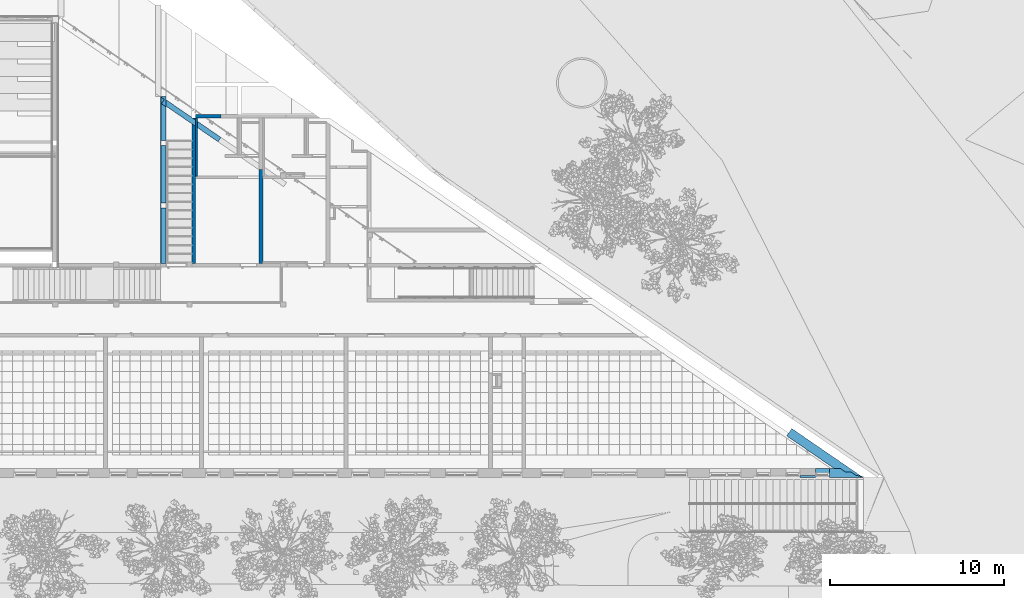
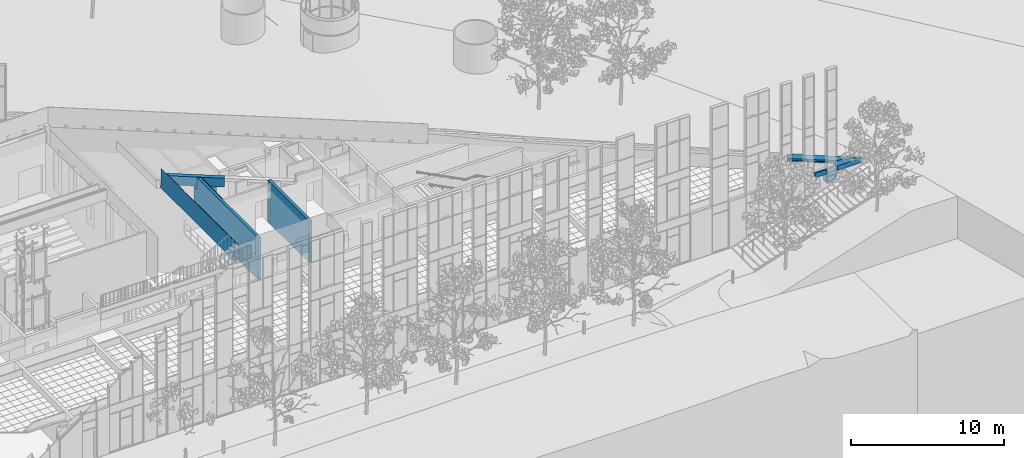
# One storey, part 134 of 246: 9 walls, 1 opening.
"""IFC2X3 building model written with IfcOpenShell, lengths in millimetres."""

import ifcopenshell
import ifcopenshell.guid

model = None  # the IFC model being written
_history = None  # IfcOwnerHistory: only IFC2X3 demands one
_inside = {}  # id of a spatial element -> (the spatial element, [elements in it])
_under = {}  # id of a project, library or spatial element -> (it, [spatial elements below it])
_declared = {}  # id of a project -> (the project, [libraries it declares])
_typed = {}  # id of a type object -> (the type object, [elements of that type])
_made_of = {}  # id of a material, layer set ... -> (it, [elements and type objects made of it])


def new_model(schema):
    """Start an empty IFC model of exactly this schema.

    Asked for "IFC4X3", IfcOpenShell would pick the latest addendum, in which some entities
    have other attributes; the version numbers below select the first issue.
    IFC2X3 requires an IfcOwnerHistory on every rooted entity: one is made here for all.
    """
    global model, _history
    if schema == "IFC4X3":
        model = ifcopenshell.file(schema_version=(4, 3, 0, 0))
    else:
        model = ifcopenshell.file(schema=schema)
    _inside.clear()
    _under.clear()
    _declared.clear()
    _typed.clear()
    _made_of.clear()
    _history = None
    if model.schema == "IFC2X3":
        org = make("IfcOrganization", Name="unknown")
        user = make(
            "IfcPersonAndOrganization",
            ThePerson=make("IfcPerson", FamilyName="unknown"),
            TheOrganization=org,
        )
        app = make(
            "IfcApplication",
            ApplicationDeveloper=org,
            Version="unknown",
            ApplicationFullName="unknown",
            ApplicationIdentifier="unknown",
        )
        _history = make(
            "IfcOwnerHistory",
            OwningUser=user,
            OwningApplication=app,
            ChangeAction="ADDED",
            CreationDate=0,
        )
    return model


def make(cls, **values):
    """One entity of the class cls with the attributes given. An attribute that is None is left unset."""
    return model.create_entity(
        cls, **{name: value for name, value in values.items() if value is not None}
    )


def entity(cls, *values):
    """Any entity or typed value of the class cls, its attributes in the order of the schema. None: left unset."""
    e = model.create_entity(cls)
    for i, value in enumerate(values):
        if value is not None:
            e[i] = value
    return e


def rooted(cls, **values):
    """An entity with a GlobalId (a new one), such as an element, a storey or a relation."""
    return make(cls, GlobalId=ifcopenshell.guid.new(), OwnerHistory=_history, **values)


def si_unit(unit_type, name, prefix=None):
    """IfcSIUnit, for example si_unit("LENGTHUNIT", "METRE", prefix="MILLI")."""
    return make("IfcSIUnit", UnitType=unit_type, Prefix=prefix, Name=name)


def converted_unit(unit_type, name, factor, base, dimensions=None, offset=None):
    """IfcConversionBasedUnit, such as the inch: factor (a typed value) times the base unit."""
    return make(
        "IfcConversionBasedUnit"
        if offset is None
        else "IfcConversionBasedUnitWithOffset",
        ConversionOffset=offset,
        Dimensions=None
        if dimensions is None
        else entity("IfcDimensionalExponents", *dimensions),
        UnitType=unit_type,
        Name=name,
        ConversionFactor=make(
            "IfcMeasureWithUnit", ValueComponent=factor, UnitComponent=base
        ),
    )


def derived_unit(unit_type, elements):
    """IfcDerivedUnit: a product of units, each with its exponent."""
    return make(
        "IfcDerivedUnit",
        Elements=[
            make("IfcDerivedUnitElement", Unit=unit, Exponent=power)
            for unit, power in elements
        ],
        UnitType=unit_type,
    )


def money_unit(currency):
    """IfcMonetaryUnit."""
    return make("IfcMonetaryUnit", Currency=currency)


def assignment(units):
    """IfcUnitAssignment: the units of a project."""
    return None if units is None else make("IfcUnitAssignment", Units=units)


def point(xyz):
    """IfcCartesianPoint."""
    return None if xyz is None else make("IfcCartesianPoint", Coordinates=xyz)


def direction(xyz):
    """IfcDirection."""
    return None if xyz is None else make("IfcDirection", DirectionRatios=xyz)


def frame(location, z_axis=None, x_axis=None):
    """IfcAxis2Placement3D, a coordinate frame: its origin and axes. An axis left out is left unset."""
    return make(
        "IfcAxis2Placement3D",
        Location=point(location),
        Axis=direction(z_axis),
        RefDirection=direction(x_axis),
    )


def origin_with_axes():
    """The frame at (0, 0, 0) with the z axis (0, 0, 1) and the x axis (1, 0, 0) written out."""
    return frame((0.0, 0.0, 0.0), z_axis=(0.0, 0.0, 1.0), x_axis=(1.0, 0.0, 0.0))


def place(relative_to, where):
    """IfcLocalPlacement: puts the frame where relative to a parent placement (None: the world)."""
    return make(
        "IfcLocalPlacement", PlacementRelTo=relative_to, RelativePlacement=where
    )


def context(
    kind, dimensions, precision=None, world=None, true_north=None, identifier=None
):
    """IfcGeometricRepresentationContext, for example the 3D "Model" context."""
    return make(
        "IfcGeometricRepresentationContext",
        ContextIdentifier=identifier,
        ContextType=kind,
        CoordinateSpaceDimension=dimensions,
        Precision=precision,
        WorldCoordinateSystem=world,
        TrueNorth=true_north,
    )


def subcontext(parent, identifier, kind, view, scale=None):
    """IfcGeometricRepresentationSubContext, for example "Body" below "Model"."""
    return make(
        "IfcGeometricRepresentationSubContext",
        ContextIdentifier=identifier,
        ContextType=kind,
        ParentContext=parent,
        TargetScale=scale,
        TargetView=view,
    )


def project(units=None, contexts=None):
    """IfcProject with its units and contexts."""
    return rooted(
        "IfcProject",
        Name="project",
        RepresentationContexts=contexts,
        UnitsInContext=assignment(units),
    )


def spatial(cls, under=None, at=None, **own):
    """A site, building, storey or space (cls), placed at a placement, below another one or the project."""
    s = rooted(cls, ObjectPlacement=at, **own)
    if under is not None:
        _under.setdefault(under.id(), (under, []))[1].append(s)
    return s


def faces_of(points, faces, orient=None, outer=None):
    """IfcFace entities. A face is a list of loops; a loop is a list of indices into points, from 0.

    orient and outer hold one flag for each loop. By default every Orientation is true, the
    first loop of a face is its IfcFaceOuterBound and the others are IfcFaceBound.
    """
    made = []
    for i, loops in enumerate(faces):
        bounds = []
        for j, loop in enumerate(loops):
            is_outer = j == 0 if outer is None else outer[i][j]
            bounds.append(
                make(
                    "IfcFaceOuterBound" if is_outer else "IfcFaceBound",
                    Bound=make("IfcPolyLoop", Polygon=[points[k] for k in loop]),
                    Orientation=True if orient is None else orient[i][j],
                )
            )
        made.append(make("IfcFace", Bounds=bounds))
    return made


def faceted_brep(points, faces, orient=None, outer=None, voids=None):
    """IfcFacetedBrep: a solid bounded by flat faces; with voids (closed shells), ...WithVoids."""
    shared = [point(p) for p in points]
    hull = make("IfcClosedShell", CfsFaces=faces_of(shared, faces, orient, outer))
    if voids is None:
        return make("IfcFacetedBrep", Outer=hull)
    return make(
        "IfcFacetedBrepWithVoids",
        Outer=hull,
        Voids=[
            make(cls, CfsFaces=faces_of(shared, fs, o, b)) for cls, fs, o, b in voids
        ],
    )


def shape(context_of_items, identifier, shape_type, items):
    """IfcShapeRepresentation: the items that make up one representation, for example the "Body"."""
    return make(
        "IfcShapeRepresentation",
        ContextOfItems=context_of_items,
        RepresentationIdentifier=identifier,
        RepresentationType=shape_type,
        Items=items,
    )


def material(Name=None, Category=None):
    """IfcMaterial."""
    return make("IfcMaterial", Name=Name, Category=Category)


def material_list(materials):
    """IfcMaterialList."""
    return make("IfcMaterialList", Materials=materials)


def made_of(thing, what):
    """Note that an element or type object is made of a material, layer set ...; save() writes the relation."""
    if what is not None:
        _made_of.setdefault(what.id(), (what, []))[1].append(thing)
    return thing


def type_object(cls, material=None, **own):
    """A type object (cls), such as IfcWallType, which elements share."""
    return made_of(rooted(cls, **own), material)


def element(
    cls,
    number,
    at=None,
    inside=None,
    cuts=None,
    type_object=None,
    material=None,
    context=None,
    identifier="Body",
    shape_type=None,
    held_by="IfcProductDefinitionShape",
    body=None,
    shapes=None,
    **own,
):
    """One element of the class cls, such as IfcWall. Its Tag is "e" and its number.

    at: its placement. inside: the storey or other place that contains it. cuts: it is an
    opening in that element (IfcRelVoidsElement). A single representation is given by context,
    identifier, shape_type and body (its items); several are given by shapes. held_by: the class
    of the entity that holds the representations. save() writes the other relations.
    """
    e = rooted(cls, Tag="e%d" % number, ObjectPlacement=at, **own)
    if body is not None:
        shapes = [shape(context, identifier, shape_type, body)]
    if shapes is not None:
        e.Representation = make(held_by, Representations=shapes)
    if inside is not None:
        _inside.setdefault(inside.id(), (inside, []))[1].append(e)
    if cuts is not None:
        rooted(
            "IfcRelVoidsElement", RelatingBuildingElement=cuts, RelatedOpeningElement=e
        )
    if type_object is not None:
        _typed.setdefault(type_object.id(), (type_object, []))[1].append(e)
    return made_of(e, material)


def aggregate(whole, parts):
    """IfcRelAggregates: a whole, such as a stair, and the parts it consists of."""
    return rooted("IfcRelAggregates", RelatingObject=whole, RelatedObjects=parts)


def save(model, path):
    """Write the relations noted so far, then the file.

    IfcRelAggregates (storeys below a building ...), IfcRelContainedInSpatialStructure (elements
    in a storey), IfcRelDefinesByType, IfcRelAssociatesMaterial and IfcRelDeclares: one each for
    every whole, place, type object, material and project.
    """
    for whole, parts in _under.values():
        aggregate(whole, parts)
    for where, things in _inside.values():
        rooted(
            "IfcRelContainedInSpatialStructure",
            RelatedElements=things,
            RelatingStructure=where,
        )
    for kind, things in _typed.values():
        rooted("IfcRelDefinesByType", RelatedObjects=things, RelatingType=kind)
    for what, things in _made_of.values():
        rooted("IfcRelAssociatesMaterial", RelatedObjects=things, RelatingMaterial=what)
    for by, libraries in _declared.values():
        rooted("IfcRelDeclares", RelatingContext=by, RelatedDefinitions=libraries)
    model.write(path)


model = new_model("IFC2X3")

# Units and contexts
model_context = context("Model", 3, precision=0.01, world=origin_with_axes(), true_north=direction((0.0, 1.0)))
body_context = subcontext(model_context, "Body", "Model", "MODEL_VIEW")
ifc_project = project(units=[si_unit("LENGTHUNIT", "METRE", prefix="MILLI"), si_unit("AREAUNIT", "SQUARE_METRE"), si_unit("VOLUMEUNIT", "CUBIC_METRE"), converted_unit("PLANEANGLEUNIT", "DEGREE", entity("IfcPlaneAngleMeasure", 0.0174532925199), si_unit("PLANEANGLEUNIT", "RADIAN"), dimensions=[0, 0, 0, 0, 0, 0, 0]), si_unit("SOLIDANGLEUNIT", "STERADIAN"), money_unit("EUR"), converted_unit("TIMEUNIT", "Year", entity("IfcTimeMeasure", 31556926.0), si_unit("TIMEUNIT", "SECOND"), dimensions=[0, 0, 1, 0, 0, 0, 0]), si_unit("MASSUNIT", "GRAM", prefix="KILO"), si_unit("THERMODYNAMICTEMPERATUREUNIT", "DEGREE_CELSIUS"), si_unit("LUMINOUSINTENSITYUNIT", "LUMEN"), si_unit("ENERGYUNIT", "JOULE", prefix="MEGA"), derived_unit("THERMALCONDUCTANCEUNIT", [(si_unit("POWERUNIT", "WATT"), 1), (si_unit("LENGTHUNIT", "METRE"), -1), (si_unit("THERMODYNAMICTEMPERATUREUNIT", "KELVIN"), -1)]), derived_unit("SPECIFICHEATCAPACITYUNIT", [(si_unit("ENERGYUNIT", "JOULE"), 1), (si_unit("MASSUNIT", "GRAM", prefix="KILO"), -1), (si_unit("THERMODYNAMICTEMPERATUREUNIT", "KELVIN"), -1)]), derived_unit("MASSDENSITYUNIT", [(si_unit("MASSUNIT", "GRAM", prefix="KILO"), 1), (si_unit("VOLUMEUNIT", "CUBIC_METRE"), -1)])], contexts=[model_context])

# Site, building, storey
site_placement = place(None, origin_with_axes())
site = spatial("IfcSite", under=ifc_project, at=site_placement, Name="L.Koidula tn 11b", CompositionType="ELEMENT")
building_placement = place(site_placement, origin_with_axes())
building = spatial("IfcBuilding", under=site, at=building_placement, Name="Rakvere Riigigümnaasium", CompositionType="ELEMENT")
storey_placement = place(building_placement, origin_with_axes())
storey = spatial("IfcBuildingStorey", under=building, at=storey_placement, Name="1.korrus 0,00", CompositionType="ELEMENT", Elevation=0.0)

# Walls
ifc_material_1 = material(Name="siseviimistlus-seinad")
ifc_material_2 = material(Name="Betoon element / plaat")
ifc_material_list_1 = material_list([ifc_material_1, ifc_material_2])
wall_type_1 = type_object("IfcWallType", Name="SS-01-1 210", PredefinedType="NOTDEFINED")
wall_1_placement = place(storey_placement, frame((65899.9980729, 25700.9371768, 0.0), z_axis=(0.0, 0.0, 1.0), x_axis=(0.0, -1.0, 0.0)))
element("IfcWall", 1, at=wall_1_placement, inside=storey, type_object=wall_type_1, material=ifc_material_list_1, Name="Sisesein", context=body_context, shape_type="Brep", body=[
    faceted_brep([(542.761854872, 210.0, 2790.0), (542.761854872, 210.0, 3324.99999166), (3360.48384003, 210.0, 3324.99999166), (3360.48384003, 210.0, 0.0), (1.49994481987, 210.0, 0.0), (1.49994481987, 210.0, 2345.0), (542.761854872, 210.0, 2345.0), (535.903521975, 200.0, 3324.99999166), (535.903521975, 200.0, 2790.0), (3360.48384003, 200.0, 3324.99999166), (3360.48384003, 200.0, 0.0), (1.49994481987, 200.0, 0.0), (1.49994481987, 200.0, 2345.0), (535.903521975, 200.0, 2345.0)], [[[0, 1, 2, 3, 4, 5, 6]], [[7, 1, 0, 8]], [[1, 7, 9, 2]], [[10, 3, 2, 9]], [[3, 10, 11, 4]], [[11, 12, 5, 4]], [[13, 6, 5, 12]], [[8, 0, 6, 13]], [[7, 8, 13, 12, 11, 10, 9]]]),
    faceted_brep([(8380.48165424, 210.0, 3324.99999166), (3480.48384003, 210.0, 3324.99999166), (3480.48384003, 200.0, 3324.99999166), (8380.48165424, 200.0, 3324.99999166), (8380.48165424, 210.0, 0.0), (3480.48384003, 210.0, 0.0), (3480.48384003, 200.0, 0.0), (8380.48165424, 200.0, 0.0)], [[[0, 1, 2, 3]], [[4, 5, 1, 0]], [[2, 1, 5, 6]], [[3, 2, 6, 7]], [[3, 7, 4, 0]], [[7, 6, 5, 4]]]),
    faceted_brep([(535.903521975, 200.0, 2610.0), (535.903521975, 200.0, 3324.99999166), (8390.48165424, 200.0, 3324.99999166), (8390.48165424, 200.0, 0.0), (0.0, 200.0, 0.0), (0.0, 200.0, 2345.0), (535.903521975, 200.0, 2345.0), (398.736864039, 0.0, 3324.99999166), (398.736864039, 0.0, 2610.0), (8390.48165424, 0.0, 3324.99999166), (8390.48165424, 0.0, 0.0), (0.0, 0.0, 0.0), (0.0, 0.0, 2345.0), (398.736864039, 0.0, 2345.0)], [[[0, 1, 2, 3, 4, 5, 6]], [[7, 1, 0, 8]], [[1, 7, 9, 2]], [[10, 3, 2, 9]], [[11, 4, 3, 10]], [[4, 11, 12, 5]], [[12, 13, 6, 5]], [[8, 0, 6, 13]], [[7, 8, 13, 12, 11, 10, 9]]]),
])
ifc_material_list_2 = material_list([ifc_material_2, ifc_material_1])
wall_2_placement = place(storey_placement, frame((65899.9980729, 25699.437232, 0.0), z_axis=(0.0, 0.0, 1.0), x_axis=(1.0, 0.0, 0.0)))
element("IfcWall", 2, at=wall_2_placement, inside=storey, type_object=wall_type_1, material=ifc_material_list_2, Name="Sisesein", context=body_context, shape_type="Brep", body=[
    faceted_brep([(200.0, 200.0, 0.0), (200.0, 200.0, 2345.0), (1676.1392506, 200.0, 2345.0), (1676.1392506, 200.0, 0.0), (200.0, 0.0, 0.0), (200.0, 0.0, 2345.0), (1676.1392506, 0.0, 2345.0), (1676.1392506, 0.0, 0.0)], [[[0, 1, 2, 3]], [[4, 5, 1, 0]], [[5, 6, 2, 1]], [[3, 2, 6, 7]], [[4, 0, 3, 7]], [[7, 6, 5, 4]]]),
    faceted_brep([(276.0, 0.0, 0.0), (276.0, 0.0, 2345.0), (1676.1392506, 0.0, 2345.0), (1676.1392506, 0.0, 0.0), (276.0, -10.0, 0.0), (276.0, -10.0, 2345.0), (1676.1392506, -10.0, 2345.0), (1676.1392506, -10.0, 0.0)], [[[0, 1, 2, 3]], [[4, 5, 1, 0]], [[5, 6, 2, 1]], [[3, 2, 6, 7]], [[4, 0, 3, 7]], [[7, 6, 5, 4]]]),
])
ifc_material_3 = material(Name="Polükarbamiid")
ifc_material_list_3 = material_list([ifc_material_3, ifc_material_1, ifc_material_2, ifc_material_1, ifc_material_3])
wall_type_2 = type_object("IfcWallType", Name="SS-01-4 230", PredefinedType="NOTDEFINED")
wall_3_placement = place(storey_placement, frame((69964.9873298, 22718.18075, 0.0), z_axis=(0.0, 0.0, 1.0), x_axis=(0.0, -1.0, 0.0)))
element("IfcWall", 3, at=wall_3_placement, inside=storey, type_object=wall_type_2, material=ifc_material_list_3, Name="Sisesein", context=body_context, shape_type="Brep", body=[
    faceted_brep([(507.727413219, 10.0, 3325.0), (507.727413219, 15.0, 3325.0), (507.727413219, 15.0, 0.0), (507.727413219, 10.0, 0.0), (5397.72522743, 15.0, 3325.0), (5397.72522743, 10.0, 3325.0), (5397.72522743, 15.0, 0.0), (5386.22522743, 15.0, 0.0), (5386.22522743, 15.0, 3255.0), (5294.72522743, 15.0, 3255.0), (5294.72522743, 15.0, 0.0), (5294.72522743, 10.0, 0.0), (5294.72522743, 10.0, 3255.0), (5386.22522743, 10.0, 3255.0), (5386.22522743, 10.0, 0.0), (5397.72522743, 10.0, 0.0)], [[[0, 1, 2, 3]], [[4, 1, 0, 5]], [[1, 4, 6, 7, 8, 9, 10, 2]], [[2, 10, 11, 3]], [[5, 0, 3, 11, 12, 13, 14, 15]], [[4, 5, 15, 6]], [[15, 14, 7, 6]], [[13, 8, 7, 14]], [[13, 12, 9, 8]], [[11, 10, 9, 12]]]),
    faceted_brep([(214.180043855, 15.0, 3255.0), (0.0, 15.0, 3255.0), (0.0, 15.0, 3325.0), (367.727413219, 15.0, 3325.0), (367.727413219, 15.0, 0.0), (0.0, 15.0, 0.0), (0.0, 15.0, 2810.0), (214.180043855, 15.0, 2810.0), (0.0, 10.0, 3255.0), (210.750860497, 10.0, 3255.0), (0.0, 10.0, 3325.0), (367.727413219, 10.0, 3325.0), (367.727413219, 10.0, 0.0), (0.0, 10.0, 0.0), (0.0, 10.0, 2810.0), (210.750860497, 10.0, 2810.0)], [[[0, 1, 2, 3, 4, 5, 6, 7]], [[8, 1, 0, 9]], [[1, 8, 10, 2]], [[3, 2, 10, 11]], [[3, 11, 12, 4]], [[5, 4, 12, 13]], [[14, 6, 5, 13]], [[7, 6, 14, 15]], [[9, 0, 7, 15]], [[9, 15, 14, 13, 12, 11, 10, 8]]]),
    faceted_brep([(497.727413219, 0.0, 3325.0), (497.727413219, 10.0, 3325.0), (497.727413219, 10.0, 0.0), (497.727413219, 0.0, 0.0), (5397.72522743, 10.0, 3325.0), (5397.72522743, 0.0, 3325.0), (5397.72522743, 10.0, 0.0), (5386.22522743, 10.0, 0.0), (5386.22522743, 10.0, 3255.0), (5320.22522743, 10.0, 3255.0), (5320.22522743, 10.0, 0.0), (5320.22522743, 0.0, 0.0), (5320.22522743, 0.0, 3255.0), (5386.22522743, 0.0, 3255.0), (5386.22522743, 0.0, 0.0), (5397.72522743, 0.0, 0.0)], [[[0, 1, 2, 3]], [[4, 1, 0, 5]], [[1, 4, 6, 7, 8, 9, 10, 2]], [[2, 10, 11, 3]], [[5, 0, 3, 11, 12, 13, 14, 15]], [[4, 5, 15, 6]], [[15, 14, 7, 6]], [[13, 8, 7, 14]], [[12, 9, 8, 13]], [[11, 10, 9, 12]]]),
    faceted_brep([(210.750860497, 10.0, 3255.0), (0.0, 10.0, 3255.0), (0.0, 10.0, 3325.0), (377.727413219, 10.0, 3325.0), (377.727413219, 10.0, 0.0), (0.0, 10.0, 0.0), (0.0, 10.0, 2810.0), (210.750860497, 10.0, 2810.0), (0.0, 0.0, 3255.0), (203.89249378, 0.0, 3255.0), (0.0, 0.0, 3325.0), (377.727413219, 0.0, 3325.0), (377.727413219, 0.0, 0.0), (0.0, 0.0, 0.0), (0.0, 0.0, 2810.0), (203.89249378, 0.0, 2810.0)], [[[0, 1, 2, 3, 4, 5, 6, 7]], [[8, 1, 0, 9]], [[1, 8, 10, 2]], [[3, 2, 10, 11]], [[3, 11, 12, 4]], [[5, 4, 12, 13]], [[14, 6, 5, 13]], [[7, 6, 14, 15]], [[9, 0, 7, 15]], [[9, 15, 14, 13, 12, 11, 10, 8]]]),
    faceted_brep([(203.89249378, 0.0, 2810.0), (203.89249378, 0.0, 3075.0), (0.0, 0.0, 3075.0), (0.0, 0.0, 3325.0), (5407.72522743, 0.0, 3325.0), (5407.72522743, 0.0, 0.0), (0.0, 0.0, 0.0), (0.0, 0.0, 2810.0), (66.7251594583, -200.0, 2810.0), (66.7251594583, -200.0, 3075.0), (0.0, -200.0, 3075.0), (0.0, -200.0, 3325.0), (5407.72522743, -200.0, 3325.0), (5407.72522743, -200.0, 0.0), (0.0, -200.0, 0.0), (0.0, -200.0, 2810.0)], [[[0, 1, 2, 3, 4, 5, 6, 7]], [[1, 0, 8, 9]], [[10, 2, 1, 9]], [[2, 10, 11, 3]], [[4, 3, 11, 12]], [[4, 12, 13, 5]], [[5, 13, 14, 6]], [[15, 7, 6, 14]], [[0, 7, 15, 8]], [[8, 15, 14, 13, 12, 11, 10, 9]]]),
    faceted_brep([(497.727413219, -210.0, 3325.0), (497.727413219, -200.0, 3325.0), (497.727413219, -200.0, 0.0), (497.727413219, -210.0, 0.0), (5397.72522743, -200.0, 3325.0), (5397.72522743, -210.0, 3325.0), (5397.72522743, -200.0, 0.0), (5397.72522743, -210.0, 0.0)], [[[0, 1, 2, 3]], [[4, 1, 0, 5]], [[1, 4, 6, 2]], [[7, 3, 2, 6]], [[5, 0, 3, 7]], [[4, 5, 7, 6]]]),
    faceted_brep([(66.7251594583, -200.0, 3255.0), (0.0, -200.0, 3255.0), (0.0, -200.0, 3325.0), (377.727413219, -200.0, 3325.0), (377.727413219, -200.0, 0.0), (0.0, -200.0, 0.0), (0.0, -200.0, 2810.0), (66.7251594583, -200.0, 2810.0), (0.0, -210.0, 3255.0), (59.8667927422, -210.0, 3255.0), (0.0, -210.0, 3325.0), (377.727413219, -210.0, 3325.0), (377.727413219, -210.0, 0.0), (0.0, -210.0, 0.0), (0.0, -210.0, 2810.0), (59.8667927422, -210.0, 2810.0)], [[[0, 1, 2, 3, 4, 5, 6, 7]], [[8, 1, 0, 9]], [[1, 8, 10, 2]], [[3, 2, 10, 11]], [[3, 11, 12, 4]], [[5, 4, 12, 13]], [[14, 6, 5, 13]], [[7, 6, 14, 15]], [[9, 0, 7, 15]], [[9, 15, 14, 13, 12, 11, 10, 8]]]),
    faceted_brep([(507.727413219, -215.0, 3325.0), (507.727413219, -210.0, 3325.0), (507.727413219, -210.0, 0.0), (507.727413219, -215.0, 0.0), (5397.72522743, -210.0, 3325.0), (5397.72522743, -215.0, 3325.0), (5397.72522743, -210.0, 0.0), (5397.72522743, -215.0, 0.0)], [[[0, 1, 2, 3]], [[4, 1, 0, 5]], [[1, 4, 6, 2]], [[7, 3, 2, 6]], [[5, 0, 3, 7]], [[4, 5, 7, 6]]]),
    faceted_brep([(59.8667927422, -210.0, 3255.0), (0.0, -210.0, 3255.0), (0.0, -210.0, 3325.0), (367.727413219, -210.0, 3325.0), (367.727413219, -210.0, 0.0), (0.0, -210.0, 0.0), (0.0, -210.0, 2810.0), (59.8667927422, -210.0, 2810.0), (0.0, -215.0, 3255.0), (56.4376093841, -215.0, 3255.0), (0.0, -215.0, 3325.0), (367.727413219, -215.0, 3325.0), (367.727413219, -215.0, 0.0), (0.0, -215.0, 0.0), (0.0, -215.0, 2810.0), (56.4376093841, -215.0, 2810.0)], [[[0, 1, 2, 3, 4, 5, 6, 7]], [[8, 1, 0, 9]], [[1, 8, 10, 2]], [[3, 2, 10, 11]], [[3, 11, 12, 4]], [[5, 4, 12, 13]], [[14, 6, 5, 13]], [[7, 6, 14, 15]], [[9, 0, 7, 15]], [[9, 15, 14, 13, 12, 11, 10, 8]]]),
])
ifc_material_4 = material(Name="FF-PIR soojustus-2")
ifc_material_5 = material(Name="Betoon-element")
ifc_material_6 = material(Name="Krohv")
ifc_material_list_4 = material_list([ifc_material_4, ifc_material_5, ifc_material_6])
wall_type_3 = type_object("IfcWallType", Name="VS-01-3 390", PredefinedType="NOTDEFINED")
wall_4_placement = place(storey_placement, frame((102599.965712, 5500.45553887, 2574.64494742), z_axis=(0.0, 0.0, 1.0), x_axis=(-1.0, 0.0, 0.0)))
element("IfcWall", 4, at=wall_4_placement, inside=storey, type_object=wall_type_3, material=ifc_material_list_4, Name="Välissein", context=body_context, shape_type="Brep", body=[
    faceted_brep([(0.0, 200.0, 750.355052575), (800.0, 200.0, 750.355052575), (800.0, 380.0, 750.355052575), (0.0, 380.0, 750.355052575), (0.0, 200.0, 0.0), (800.0, 200.0, 0.0), (800.0, 380.0, 0.0), (0.0, 380.0, 0.0)], [[[0, 1, 2, 3]], [[4, 5, 1, 0]], [[2, 1, 5, 6]], [[3, 2, 6, 7]], [[4, 0, 3, 7]], [[7, 6, 5, 4]]]),
    faceted_brep([(0.0, 0.0, 750.355052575), (800.0, 0.0, 750.355052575), (800.0, 200.0, 750.355052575), (0.0, 200.0, 750.355052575), (0.0, 0.0, 0.0), (800.0, 0.0, 0.0), (800.0, 200.0, 0.0), (0.0, 200.0, 0.0)], [[[0, 1, 2, 3]], [[4, 5, 1, 0]], [[2, 1, 5, 6]], [[3, 2, 6, 7]], [[4, 0, 3, 7]], [[7, 6, 5, 4]]]),
    faceted_brep([(0.0, -10.0, 750.355052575), (800.0, -10.0, 750.355052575), (800.0, 0.0, 750.355052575), (0.0, 0.0, 750.355052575), (0.0, -10.0, 0.0), (800.0, -10.0, 0.0), (800.0, 0.0, 0.0), (0.0, 0.0, 0.0)], [[[0, 1, 2, 3]], [[4, 5, 1, 0]], [[2, 1, 5, 6]], [[3, 2, 6, 7]], [[4, 0, 3, 7]], [[7, 6, 5, 4]]]),
])

# Wall, opening
ifc_material_7 = material(Name="FF-PIR soojustus")
ifc_material_8 = material(Name="Tuuletõke (RKL Facade)")
ifc_material_9 = material(Name="Salto-roovitus")
ifc_material_10 = material(Name="Puit-fassaad")
ifc_material_list_5 = material_list([ifc_material_5, ifc_material_7, ifc_material_8, ifc_material_9, ifc_material_9, ifc_material_10])
wall_type_4 = type_object("IfcWallType", Name="VS-01 514", PredefinedType="NOTDEFINED")
wall_5_placement = place(storey_placement, frame((100899.965712, 5500.45553887, 3344.20366831), z_axis=(0.0, 0.0, 1.0), x_axis=(1.0, 0.0, 0.0)))
wall_5 = element("IfcWall", 5, at=wall_5_placement, inside=storey, type_object=wall_type_4, material=ifc_material_list_5, Name="Välissein", context=body_context, shape_type="Brep", body=[
    faceted_brep([(1700.0, -200.0, 245.79633169), (2639.54788164, -200.0, 245.79633169), (2639.54788164, -200.0, 375.79633169), (1700.0, -200.0, 375.79633169), (2347.95043599, 0.0, 245.79633169), (1700.0, -2.10498285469e-10, 245.79633169), (2347.95043599, 0.0, 375.79633169), (1700.0, -2.10498285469e-10, 375.79633169)], [[[0, 1, 2, 3]], [[4, 1, 0, 5]], [[1, 4, 6, 2]], [[6, 7, 3, 2]], [[5, 0, 3, 7]], [[4, 5, 7, 6]]]),
    faceted_brep([(1700.0, -200.0, 0.0), (1700.0, -200.0, 375.79633169), (2957.78293148, -200.0, 375.79633169), (2957.78293148, -200.0, 0.0), (1700.0, -380.0, 375.79633169), (1700.0, -380.0, 0.0), (3220.22063257, -380.0, 375.79633169), (3220.22063257, -380.0, 0.0)], [[[0, 1, 2, 3]], [[4, 1, 0, 5]], [[1, 4, 6, 2]], [[7, 3, 2, 6]], [[5, 0, 3, 7]], [[4, 5, 7, 6]]]),
    faceted_brep([(900.0, -430.0, 375.79633169), (900.0, -380.0, 375.79633169), (0.0, -380.0, 375.79633169), (0.0, -430.0, 375.79633169), (900.0, -380.0, 0.0), (900.0, -430.0, 0.0), (0.0, -380.0, 0.0), (0.0, -430.0, 0.0)], [[[0, 1, 2, 3]], [[4, 1, 0, 5]], [[1, 4, 6, 2]], [[6, 7, 3, 2]], [[5, 0, 3, 7]], [[4, 5, 7, 6]]]),
    faceted_brep([(1700.0, -380.0, 0.0), (1700.0, -380.0, 375.79633169), (3308.61925752, -380.0, 375.79633169), (3308.61925752, -380.0, 0.0), (1700.0, -430.0, 375.79633169), (1700.0, -430.0, 0.0), (3381.51861894, -430.0, 375.79633169), (3381.51861894, -430.0, 0.0)], [[[0, 1, 2, 3]], [[4, 1, 0, 5]], [[1, 4, 6, 2]], [[3, 2, 6, 7]], [[5, 0, 3, 7]], [[4, 5, 7, 6]]]),
    faceted_brep([(900.0, -462.0, 375.79633169), (900.0, -430.0, 375.79633169), (0.0, -430.0, 375.79633169), (0.0, -462.0, 375.79633169), (900.0, -430.0, 0.0), (900.0, -462.0, 0.0), (0.0, -430.0, 0.0), (0.0, -462.0, 0.0)], [[[0, 1, 2, 3]], [[4, 1, 0, 5]], [[1, 4, 6, 2]], [[6, 7, 3, 2]], [[5, 0, 3, 7]], [[4, 5, 7, 6]]]),
    faceted_brep([(1700.0, -430.0, 0.0), (1700.0, -430.0, 375.79633169), (3438.09373891, -430.0, 375.79633169), (3438.09373891, -430.0, 0.0), (1700.0, -462.0, 375.79633169), (1700.0, -462.0, 0.0), (3484.74933021, -462.0, 375.79633169), (3484.74933021, -462.0, 0.0)], [[[0, 1, 2, 3]], [[4, 1, 0, 5]], [[1, 4, 6, 2]], [[3, 2, 6, 7]], [[5, 0, 3, 7]], [[4, 5, 7, 6]]]),
    faceted_brep([(900.0, -494.0, 375.79633169), (900.0, -462.0, 375.79633169), (0.0, -462.0, 375.79633169), (0.0, -494.0, 375.79633169), (900.0, -462.0, 0.0), (900.0, -494.0, 0.0), (0.0, -462.0, 0.0), (0.0, -494.0, 0.0)], [[[0, 1, 2, 3]], [[4, 1, 0, 5]], [[1, 4, 6, 2]], [[6, 7, 3, 2]], [[5, 0, 3, 7]], [[4, 5, 7, 6]]]),
    faceted_brep([(1700.0, -462.0, 0.0), (1700.0, -462.0, 375.79633169), (3541.32445019, -462.0, 375.79633169), (3541.32445019, -462.0, 0.0), (1700.0, -494.0, 375.79633169), (1700.0, -494.0, 0.0), (3587.98004149, -494.0, 375.79633169), (3587.98004149, -494.0, 0.0)], [[[0, 1, 2, 3]], [[4, 1, 0, 5]], [[1, 4, 6, 2]], [[3, 2, 6, 7]], [[5, 0, 3, 7]], [[4, 5, 7, 6]]]),
    faceted_brep([(900.0, -514.0, 375.79633169), (900.0, -494.0, 375.79633169), (0.0, -494.0, 375.79633169), (0.0, -514.0, 375.79633169), (900.0, -494.0, 0.0), (900.0, -514.0, 0.0), (0.0, -494.0, 0.0), (0.0, -514.0, 0.0)], [[[0, 1, 2, 3]], [[4, 1, 0, 5]], [[1, 4, 6, 2]], [[7, 3, 2, 6]], [[5, 0, 3, 7]], [[4, 5, 7, 6]]]),
    faceted_brep([(1700.0, -494.0, 0.0), (1700.0, -494.0, 375.79633169), (3623.33949147, -494.0, 375.79633169), (3623.33949147, -494.0, 0.0), (1700.0, -514.0, 375.79633169), (1700.0, -514.0, 0.0), (3652.49923604, -514.0, 375.79633169), (3652.49923604, -514.0, 0.0)], [[[0, 1, 2, 3]], [[4, 1, 0, 5]], [[1, 4, 6, 2]], [[2, 6, 7, 3]], [[5, 0, 3, 7]], [[4, 5, 7, 6]]]),
])
opening_placement = place(wall_5_placement, frame((1300.0, 0.0, -912.20366831), z_axis=(0.0, 0.0, 1.0), x_axis=(1.0, 0.0, 0.0)))
element("IfcOpeningElement", 6, at=opening_placement, cuts=wall_5, Name="Ava", context=body_context, shape_type="Brep", body=[
    faceted_brep([(-400.0, -1028.0, 0.0), (-400.0, -1028.0, 1288.0), (-400.0, 514.0, 1288.0), (-400.0, 514.0, 0.0), (400.0, -1028.0, 0.0), (400.0, -1028.0, 1288.0), (400.0, 514.0, 1288.0), (400.0, 514.0, 0.0)], [[[0, 1, 2, 3]], [[0, 4, 5, 1]], [[1, 5, 6, 2]], [[3, 2, 6, 7]], [[4, 0, 3, 7]], [[5, 4, 7, 6]]]),
])

# Walls
wall_6_placement = place(storey_placement, frame((102894.321649, 5500.45553887, 3344.20366831), z_axis=(0.0, 0.0, 1.0), x_axis=(-0.824666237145, 0.565619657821, 0.0)))
element("IfcWall", 7, at=wall_6_placement, inside=storey, type_object=wall_type_4, material=ifc_material_list_5, Name="Välissein", context=body_context, shape_type="Brep", body=[
    faceted_brep([(0.0, 0.0, 245.79633169), (-291.597445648, -200.0, 245.79633169), (-291.597445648, -200.0, 375.79633169), (0.0, 0.0, 375.79633169), (3341.90963671, -200.0, 245.79633169), (3341.90963671, 0.0, 245.79633169), (3341.90963671, -200.0, 375.79633169), (3341.90963671, 0.0, 375.79633169)], [[[0, 1, 2, 3]], [[4, 1, 0, 5]], [[1, 4, 6, 2]], [[2, 6, 7, 3]], [[5, 0, 3, 7]], [[4, 5, 7, 6]]]),
    faceted_brep([(3341.90963671, -200.0, 0.0), (3341.90963671, -380.0, 0.0), (-907.62964656, -380.0, 0.0), (-645.191945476, -200.0, 0.0), (3341.90963671, -200.0, 375.79633169), (3341.90963671, -380.0, 375.79633169), (-907.62964656, -380.0, 375.79633169), (-645.191945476, -200.0, 375.79633169)], [[[0, 1, 2, 3]], [[0, 4, 5, 1]], [[1, 5, 6, 2]], [[3, 2, 6, 7]], [[4, 0, 3, 7]], [[5, 4, 7, 6]]]),
    faceted_brep([(3341.90963671, -380.0, 0.0), (3341.90963671, -430.0, 0.0), (-1298.76405782, -430.0, 0.0), (-1225.86469641, -380.0, 0.0), (3341.90963671, -380.0, 375.79633169), (3341.90963671, -430.0, 375.79633169), (-1298.76405782, -430.0, 375.79633169), (-1225.86469641, -380.0, 375.79633169)], [[[0, 1, 2, 3]], [[0, 4, 5, 1]], [[1, 5, 6, 2]], [[3, 2, 6, 7]], [[4, 0, 3, 7]], [[5, 4, 7, 6]]]),
    faceted_brep([(3341.90963671, -430.0, 0.0), (3341.90963671, -462.0, 0.0), (-1433.81827408, -462.0, 0.0), (-1387.16268277, -430.0, 0.0), (3341.90963671, -430.0, 375.79633169), (3341.90963671, -462.0, 375.79633169), (-1433.81827408, -462.0, 375.79633169), (-1387.16268277, -430.0, 375.79633169)], [[[0, 1, 2, 3]], [[0, 4, 5, 1]], [[1, 5, 6, 2]], [[3, 2, 6, 7]], [[4, 0, 3, 7]], [[5, 4, 7, 6]]]),
    faceted_brep([(3341.90963671, -462.0, 0.0), (3341.90963671, -494.0, 0.0), (-1537.04898535, -494.0, 0.0), (-1490.39339405, -462.0, 0.0), (3341.90963671, -462.0, 375.79633169), (3341.90963671, -494.0, 375.79633169), (-1537.04898535, -494.0, 375.79633169), (-1490.39339405, -462.0, 375.79633169)], [[[0, 1, 2, 3]], [[0, 4, 5, 1]], [[1, 5, 6, 2]], [[3, 2, 6, 7]], [[4, 0, 3, 7]], [[5, 4, 7, 6]]]),
    faceted_brep([(3341.90963671, -494.0, 0.0), (3341.90963671, -514.0, 0.0), (-1622.78384989, -514.0, 0.0), (-1593.62410533, -494.0, 0.0), (3341.90963671, -494.0, 375.79633169), (3341.90963671, -514.0, 375.79633169), (-1622.78384989, -514.0, 375.79633169), (-1593.62410533, -494.0, 375.79633169)], [[[0, 1, 2, 3]], [[0, 4, 5, 1]], [[1, 5, 6, 2]], [[3, 2, 6, 7]], [[4, 0, 3, 7]], [[5, 4, 7, 6]]]),
])
ifc_material_11 = material(Name="Parkett-2")
ifc_material_12 = material(Name="Viineer")
ifc_material_list_6 = material_list([ifc_material_11, ifc_material_12, ifc_material_2])
wall_type_5 = type_object("IfcWallType", Name="SS-01-3 320", PredefinedType="NOTDEFINED")
wall_7_placement = place(storey_placement, frame((64110.0000003, 17110.4555225, 2145.0), z_axis=(0.0, 0.0, 1.0), x_axis=(0.0, 1.0, 0.0)))
element("IfcWall", 8, at=wall_7_placement, inside=storey, type_object=wall_type_5, material=ifc_material_list_6, Name="Sisesein", context=body_context, shape_type="Brep", body=[
    faceted_brep([(9790.41329087, 10.0, 465.0), (9790.41329087, 10.0, 1575.0), (0.0, 10.0, 1575.0), (0.0, 10.0, 1325.0), (200.0, 10.0, 1325.0), (200.0, 10.0, 0.0), (9832.06091824, 10.0, 0.0), (9832.06091824, 10.0, 200.0), (9790.41329087, 10.0, 200.0), (9797.27162376, 20.0, 1575.0), (9797.2716245, 20.0000010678, 465.0), (0.0, 20.0, 1575.0), (0.0, 20.0000010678, 1325.0), (200.0, 20.0000010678, 1325.0), (200.0, 20.0000010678, 0.0), (9832.06091824, 20.0, 0.0), (9832.06091824, 20.0, 200.0), (9797.2716245, 20.0000010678, 200.0)], [[[0, 1, 2, 3, 4, 5, 6, 7, 8]], [[9, 1, 0, 10]], [[1, 9, 11, 2]], [[2, 11, 12, 3]], [[12, 13, 4, 3]], [[13, 14, 5, 4]], [[15, 6, 5, 14]], [[15, 16, 7, 6]], [[17, 8, 7, 16]], [[10, 0, 8, 17]], [[9, 10, 17, 16, 15, 14, 13, 12, 11]]]),
    faceted_brep([(9783.55495797, 0.0, 465.0), (9783.55495797, 0.0, 1445.0), (-1.77197385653e-05, 0.0, 1445.0), (0.0, 0.0, 1325.0), (200.0, 0.0, 1325.0), (200.0, 0.0, 0.0), (9832.06091824, 0.0, 0.0), (9832.06091824, 0.0, 200.0), (9783.55495797, 0.0, 200.0), (9790.41329087, 10.0, 1445.0), (9790.41329087, 10.0, 465.0), (-1.77197385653e-05, 10.0, 1445.0), (0.0, 10.0, 1325.0), (200.0, 10.0, 1325.0), (200.0, 10.0, 0.0), (9832.06091824, 10.0, 0.0), (9832.06091824, 10.0, 200.0), (9790.41329087, 10.0, 200.0)], [[[0, 1, 2, 3, 4, 5, 6, 7, 8]], [[9, 1, 0, 10]], [[1, 9, 11, 2]], [[3, 2, 11, 12]], [[12, 13, 4, 3]], [[13, 14, 5, 4]], [[15, 6, 5, 14]], [[15, 16, 7, 6]], [[17, 8, 7, 16]], [[10, 0, 8, 17]], [[9, 10, 17, 16, 15, 14, 13, 12, 11]]]),
    faceted_brep([(9213.63506993, -300.0, 465.0), (9213.63506993, -300.0, 1180.0), (7290.00002468, -300.0, 1180.0), (7290.00002468, -300.0, 0.0), (9832.06091824, -300.0, 0.0), (9832.06091824, -300.0, 200.0), (9213.63506993, -300.0, 200.0), (9398.63633931, -30.2532960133, 1180.0), (9398.63633931, -30.2532960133, 465.0), (9646.30908123, -200.115507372, 1180.0), (9783.55495797, 0.0, 1180.0), (200.0, 0.0, 1180.0), (200.0, -300.0, 1180.0), (3390.00763819, -300.0, 1180.0), (3390.00763819, -0.0209307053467, 1180.0), (3690.00763819, -0.0209307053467, 1180.0), (3690.00763819, -300.0, 1180.0), (6990.00002468, -300.0, 1180.0), (6990.00002468, -0.0209307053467, 1180.0), (7290.00002468, -0.0209307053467, 1180.0), (7290.00002468, -0.0209307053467, 0.0), (6990.00002468, -0.0209307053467, 0.0), (6990.00002468, -300.0, 0.0), (3690.00763819, -300.0, 0.0), (3690.00763819, -0.0209307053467, 0.0), (3390.00763819, -0.0209307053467, 0.0), (3390.00763819, -300.0, 0.0), (200.0, -300.0, 0.0), (200.0, 0.0, 0.0), (9832.06091824, 0.0, 0.0), (9832.06091824, 0.0, 200.0), (9783.55495797, 0.0, 200.0), (9646.30908123, -200.115507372, 200.0), (9398.63633931, -30.2532960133, 200.0), (9646.30908123, -200.115507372, 465.0), (9783.55495797, 0.0, 465.0)], [[[0, 1, 2, 3, 4, 5, 6]], [[7, 1, 0, 8]], [[9, 10, 11, 12, 13, 14, 15, 16, 17, 18, 19, 2, 1, 7]], [[19, 20, 3, 2]], [[3, 20, 21, 22, 23, 24, 25, 26, 27, 28, 29, 4]], [[5, 4, 29, 30]], [[31, 32, 33, 6, 5, 30]], [[8, 0, 6, 33]], [[9, 7, 8, 34]], [[10, 9, 34, 35]], [[10, 35, 31, 30, 29, 28, 11]], [[11, 28, 27, 12]], [[12, 27, 26, 13]], [[26, 25, 14, 13]], [[25, 24, 15, 14]], [[15, 24, 23, 16]], [[16, 23, 22, 17]], [[22, 21, 18, 17]], [[21, 20, 19, 18]], [[35, 34, 32, 31]], [[34, 8, 33, 32]]]),
])
ifc_material_13 = material(Name="Karkass")
ifc_material_14 = material(Name="Kipsplaat-erikõva")
ifc_material_list_7 = material_list([ifc_material_13, ifc_material_14, ifc_material_14, ifc_material_3])
wall_type_6 = type_object("IfcWallType", Name="SS-09-1 97", PredefinedType="NOTDEFINED")
wall_8_placement = place(storey_placement, frame((66206.4980729, 22220.4533367, 0.0), z_axis=(0.0, 0.0, 1.0), x_axis=(0.0, 1.0, 0.0)))
element("IfcWall", 9, at=wall_8_placement, inside=storey, type_object=wall_type_6, material=ifc_material_list_7, Name="Sisesein", context=body_context, shape_type="Brep", body=[
    faceted_brep([(2892.45698804, 30.5, 2790.0), (2892.45698804, 30.5, 3255.0), (120.0, 30.5, 3255.0), (120.0, 30.5, 0.0), (3478.98389521, 30.5, 0.0), (3478.98389521, 30.5, 2345.0), (2892.45698804, 30.5, 2345.0), (2937.72198516, 96.5, 3255.0), (2937.72198516, 96.5, 2790.0), (120.0, 96.5, 3255.0), (120.0, 96.5, 0.0), (3478.98389521, 96.5, 0.0), (3478.98389521, 96.5, 2345.0), (2937.72198516, 96.5, 2345.0)], [[[0, 1, 2, 3, 4, 5, 6]], [[7, 1, 0, 8]], [[1, 7, 9, 2]], [[3, 2, 9, 10]], [[3, 10, 11, 4]], [[11, 12, 5, 4]], [[13, 6, 5, 12]], [[8, 0, 6, 13]], [[7, 8, 13, 12, 11, 10, 9]]]),
    faceted_brep([(2883.88407192, 18.0, 2790.0), (2883.88407192, 18.0, 3255.0), (120.0, 18.0, 3255.0), (120.0, 18.0, 0.0), (3468.98389521, 18.0, 0.0), (3468.98389521, 18.0, 2345.0), (2883.88407192, 18.0, 2345.0), (2892.45698804, 30.5, 3255.0), (2892.45698804, 30.5, 2790.0), (120.0, 30.5, 3255.0), (120.0, 30.5, 0.0), (3468.98389521, 30.5, 0.0), (3468.98389521, 30.5, 2345.0), (2892.45698804, 30.5, 2345.0)], [[[0, 1, 2, 3, 4, 5, 6]], [[7, 1, 0, 8]], [[1, 7, 9, 2]], [[3, 2, 9, 10]], [[3, 10, 11, 4]], [[11, 12, 5, 4]], [[13, 6, 5, 12]], [[8, 0, 6, 13]], [[7, 8, 13, 12, 11, 10, 9]]]),
    faceted_brep([(2874.96823916, 5.0, 2790.0), (2874.96823916, 5.0, 3255.0), (120.0, 5.0, 3255.0), (120.0, 5.0, 0.0), (3468.98389521, 5.0, 0.0), (3468.98389521, 5.0, 2345.0), (2874.96823916, 5.0, 2345.0), (2883.88407192, 18.0, 3255.0), (2883.88407192, 18.0, 2790.0), (120.0, 18.0, 3255.0), (120.0, 18.0, 0.0), (3468.98389521, 18.0, 0.0), (3468.98389521, 18.0, 2345.0), (2883.88407192, 18.0, 2345.0)], [[[0, 1, 2, 3, 4, 5, 6]], [[7, 1, 0, 8]], [[1, 7, 9, 2]], [[3, 2, 9, 10]], [[3, 10, 11, 4]], [[11, 12, 5, 4]], [[13, 6, 5, 12]], [[8, 0, 6, 13]], [[7, 8, 13, 12, 11, 10, 9]]]),
    faceted_brep([(2871.53907271, 0.0, 2790.0), (2871.53907271, 0.0, 3255.0), (135.0, 0.0, 3255.0), (135.0, 0.0, 0.0), (3468.98389521, 0.0, 0.0), (3468.98389521, 0.0, 2345.0), (2871.53907271, 0.0, 2345.0), (2874.96823916, 5.0, 3255.0), (2874.96823916, 5.0, 2790.0), (135.0, 5.0, 3255.0), (135.0, 5.0, 0.0), (3468.98389521, 5.0, 0.0), (3468.98389521, 5.0, 2345.0), (2874.96823916, 5.0, 2345.0)], [[[0, 1, 2, 3, 4, 5, 6]], [[7, 1, 0, 8]], [[1, 7, 9, 2]], [[3, 2, 9, 10]], [[3, 10, 11, 4]], [[11, 12, 5, 4]], [[13, 6, 5, 12]], [[8, 0, 6, 13]], [[7, 8, 13, 12, 11, 10, 9]]]),
])
wall_type_7 = type_object("IfcWallType", Name="SS-01-5 300", PredefinedType="NOTDEFINED")
wall_9_placement = place(storey_placement, frame((67565.3166577, 24573.561167, 2610.0), z_axis=(0.0, 0.0, 1.0), x_axis=(-0.824773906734, 0.565462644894, 0.0)))
element("IfcWall", 10, at=wall_9_placement, inside=storey, type_object=wall_type_7, material=ifc_material_2, Name="Sisesein", context=body_context, shape_type="Brep", body=[
    faceted_brep([(0.0, 0.0, 715.0), (0.0, 0.0, 465.0), (24.6214818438, 0.0, 465.0), (24.6214818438, 0.0, 200.0), (0.0, 0.0, 200.0), (0.0, 0.0, 0.0), (3825.6746869, 0.0, 0.0), (3825.6746869, 0.0, 715.0), (0.0029269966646, 35.9081927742, 465.0), (0.0244540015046, 300.0, 715.0), (0.0244540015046, 300.0, 465.0), (0.0, 35.9124620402, 200.0), (0.0, 0.543193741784, 200.0), (1.90418347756e-05, 0.23360394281, 200.0), (0.0, 300.0, 0.0), (3619.99554007, 300.0, 0.0), (3619.99554007, 300.0, 715.0)], [[[0, 1, 2, 3, 4, 5, 6, 7]], [[8, 1, 0, 9, 10]], [[2, 1, 8]], [[8, 11, 3, 2]], [[11, 12, 13, 4, 3]], [[5, 4, 13]], [[5, 14, 15, 6]], [[7, 6, 15, 16]], [[0, 7, 16, 9]], [[15, 14, 10, 9, 16]], [[8, 10, 14]], [[11, 8, 14]], [[14, 5, 12, 11]], [[5, 13, 12]]]),
])

save(model, "model.ifc")
